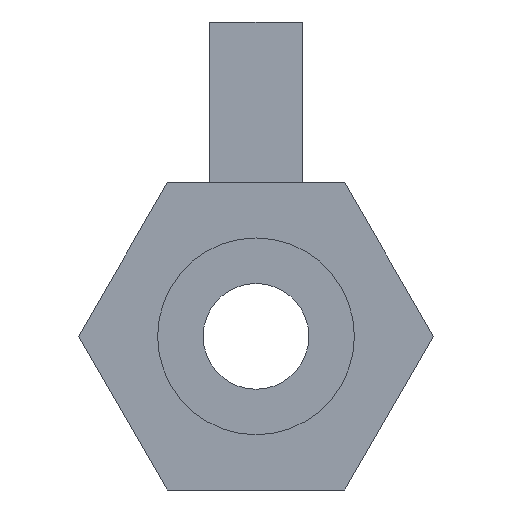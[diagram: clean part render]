
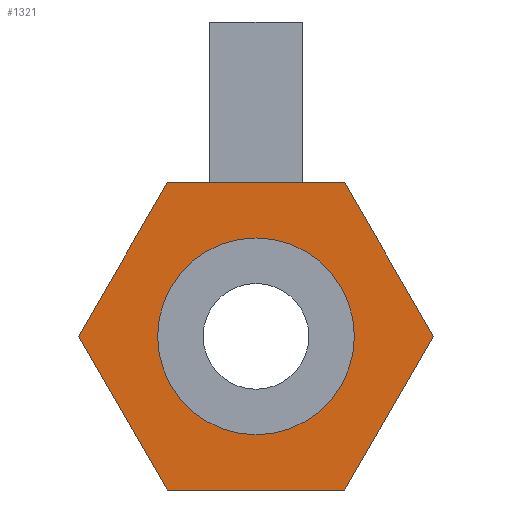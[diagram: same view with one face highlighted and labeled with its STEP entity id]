
A CAD part, left-side view. The second image highlights one B-rep face of the part: STEP entity #1321.
In plain terms, the highlighted planar face has unit normal (-1, 0, 0).
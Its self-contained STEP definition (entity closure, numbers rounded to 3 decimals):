
#346 = PLANE('',#347);
#347 = AXIS2_PLACEMENT_3D('',#348,#349,#350);
#348 = CARTESIAN_POINT('',(0.,0.,0.567));
#349 = DIRECTION('',(0.,0.,1.));
#350 = DIRECTION('',(0.,1.,0.));
#735 = CYLINDRICAL_SURFACE('',#736,0.363);
#736 = AXIS2_PLACEMENT_3D('',#737,#738,#739);
#737 = CARTESIAN_POINT('',(-2.09,0.,0.
    ));
#738 = DIRECTION('',(1.,0.,0.));
#739 = DIRECTION('',(0.,-1.,0.));
#760 = VERTEX_POINT('',#761);
#761 = CARTESIAN_POINT('',(-2.09,-0.363,0.));
#781 = EDGE_CURVE('',#760,#760,#782,.T.);
#782 = SURFACE_CURVE('',#783,(#788,#795),.PCURVE_S1.);
#783 = CIRCLE('',#784,0.363);
#784 = AXIS2_PLACEMENT_3D('',#785,#786,#787);
#785 = CARTESIAN_POINT('',(-2.09,0.,0.
    ));
#786 = DIRECTION('',(1.,0.,0.));
#787 = DIRECTION('',(0.,-1.,0.));
#788 = PCURVE('',#735,#789);
#789 = DEFINITIONAL_REPRESENTATION('',(#790),#794);
#790 = LINE('',#791,#792);
#791 = CARTESIAN_POINT('',(0.,0.));
#792 = VECTOR('',#793,1.);
#793 = DIRECTION('',(1.,0.));
#794 = ( GEOMETRIC_REPRESENTATION_CONTEXT(2) 
PARAMETRIC_REPRESENTATION_CONTEXT() REPRESENTATION_CONTEXT('2D SPACE',''
  ) );
#795 = PCURVE('',#796,#801);
#796 = PLANE('',#797);
#797 = AXIS2_PLACEMENT_3D('',#798,#799,#800);
#798 = CARTESIAN_POINT('',(-2.09,0.,0.
    ));
#799 = DIRECTION('',(1.,0.,0.));
#800 = DIRECTION('',(0.,0.,-1.));
#801 = DEFINITIONAL_REPRESENTATION('',(#802),#806);
#802 = CIRCLE('',#803,0.363);
#803 = AXIS2_PLACEMENT_2D('',#804,#805);
#804 = CARTESIAN_POINT('',(0.,0.));
#805 = DIRECTION('',(0.,-1.));
#806 = ( GEOMETRIC_REPRESENTATION_CONTEXT(2) 
PARAMETRIC_REPRESENTATION_CONTEXT() REPRESENTATION_CONTEXT('2D SPACE',''
  ) );
#868 = EDGE_CURVE('',#869,#871,#873,.T.);
#869 = VERTEX_POINT('',#870);
#870 = CARTESIAN_POINT('',(-2.09,-0.327,-0.567));
#871 = VERTEX_POINT('',#872);
#872 = CARTESIAN_POINT('',(-2.09,0.327,-0.567));
#873 = SURFACE_CURVE('',#874,(#878,#890),.PCURVE_S1.);
#874 = LINE('',#875,#876);
#875 = CARTESIAN_POINT('',(-2.09,0.327,-0.567));
#876 = VECTOR('',#877,1.);
#877 = DIRECTION('',(0.,1.,0.));
#878 = PCURVE('',#879,#884);
#879 = PLANE('',#880);
#880 = AXIS2_PLACEMENT_3D('',#881,#882,#883);
#881 = CARTESIAN_POINT('',(0.,0.,-0.567));
#882 = DIRECTION('',(0.,0.,-1.));
#883 = DIRECTION('',(0.,-1.,0.));
#884 = DEFINITIONAL_REPRESENTATION('',(#885),#889);
#885 = LINE('',#886,#887);
#886 = CARTESIAN_POINT('',(-0.327,2.09));
#887 = VECTOR('',#888,1.);
#888 = DIRECTION('',(-1.,-0.));
#889 = ( GEOMETRIC_REPRESENTATION_CONTEXT(2) 
PARAMETRIC_REPRESENTATION_CONTEXT() REPRESENTATION_CONTEXT('2D SPACE',''
  ) );
#890 = PCURVE('',#796,#891);
#891 = DEFINITIONAL_REPRESENTATION('',(#892),#896);
#892 = LINE('',#893,#894);
#893 = CARTESIAN_POINT('',(0.567,0.327));
#894 = VECTOR('',#895,1.);
#895 = DIRECTION('',(0.,1.));
#896 = ( GEOMETRIC_REPRESENTATION_CONTEXT(2) 
PARAMETRIC_REPRESENTATION_CONTEXT() REPRESENTATION_CONTEXT('2D SPACE',''
  ) );
#914 = PLANE('',#915);
#915 = AXIS2_PLACEMENT_3D('',#916,#917,#918);
#916 = CARTESIAN_POINT('',(0.,0.491,-0.284));
#917 = DIRECTION('',(0.,0.866,-0.5));
#918 = DIRECTION('',(0.,-0.5,-0.866));
#963 = PLANE('',#964);
#964 = AXIS2_PLACEMENT_3D('',#965,#966,#967);
#965 = CARTESIAN_POINT('',(0.,-0.491,-0.284));
#966 = DIRECTION('',(0.,-0.866,-0.5));
#967 = DIRECTION('',(0.,-0.5,0.866));
#978 = EDGE_CURVE('',#871,#979,#981,.T.);
#979 = VERTEX_POINT('',#980);
#980 = CARTESIAN_POINT('',(-2.09,0.655,0.));
#981 = SURFACE_CURVE('',#982,(#986,#993),.PCURVE_S1.);
#982 = LINE('',#983,#984);
#983 = CARTESIAN_POINT('',(-2.09,0.655,0.));
#984 = VECTOR('',#985,1.);
#985 = DIRECTION('',(0.,0.5,0.866));
#986 = PCURVE('',#914,#987);
#987 = DEFINITIONAL_REPRESENTATION('',(#988),#992);
#988 = LINE('',#989,#990);
#989 = CARTESIAN_POINT('',(-0.327,2.09));
#990 = VECTOR('',#991,1.);
#991 = DIRECTION('',(-1.,0.));
#992 = ( GEOMETRIC_REPRESENTATION_CONTEXT(2) 
PARAMETRIC_REPRESENTATION_CONTEXT() REPRESENTATION_CONTEXT('2D SPACE',''
  ) );
#993 = PCURVE('',#796,#994);
#994 = DEFINITIONAL_REPRESENTATION('',(#995),#999);
#995 = LINE('',#996,#997);
#996 = CARTESIAN_POINT('',(0.,0.655));
#997 = VECTOR('',#998,1.);
#998 = DIRECTION('',(-0.866,0.5));
#999 = ( GEOMETRIC_REPRESENTATION_CONTEXT(2) 
PARAMETRIC_REPRESENTATION_CONTEXT() REPRESENTATION_CONTEXT('2D SPACE',''
  ) );
#1017 = PLANE('',#1018);
#1018 = AXIS2_PLACEMENT_3D('',#1019,#1020,#1021);
#1019 = CARTESIAN_POINT('',(0.,0.491,0.284));
#1020 = DIRECTION('',(0.,0.866,0.5));
#1021 = DIRECTION('',(0.,0.5,-0.866));
#1054 = EDGE_CURVE('',#979,#1055,#1057,.T.);
#1055 = VERTEX_POINT('',#1056);
#1056 = CARTESIAN_POINT('',(-2.09,0.327,0.567));
#1057 = SURFACE_CURVE('',#1058,(#1062,#1069),.PCURVE_S1.);
#1058 = LINE('',#1059,#1060);
#1059 = CARTESIAN_POINT('',(-2.09,0.327,0.567));
#1060 = VECTOR('',#1061,1.);
#1061 = DIRECTION('',(0.,-0.5,0.866));
#1062 = PCURVE('',#1017,#1063);
#1063 = DEFINITIONAL_REPRESENTATION('',(#1064),#1068);
#1064 = LINE('',#1065,#1066);
#1065 = CARTESIAN_POINT('',(-0.327,2.09));
#1066 = VECTOR('',#1067,1.);
#1067 = DIRECTION('',(-1.,0.));
#1068 = ( GEOMETRIC_REPRESENTATION_CONTEXT(2) 
PARAMETRIC_REPRESENTATION_CONTEXT() REPRESENTATION_CONTEXT('2D SPACE',''
  ) );
#1069 = PCURVE('',#796,#1070);
#1070 = DEFINITIONAL_REPRESENTATION('',(#1071),#1075);
#1071 = LINE('',#1072,#1073);
#1072 = CARTESIAN_POINT('',(-0.567,0.327));
#1073 = VECTOR('',#1074,1.);
#1074 = DIRECTION('',(-0.866,-0.5));
#1075 = ( GEOMETRIC_REPRESENTATION_CONTEXT(2) 
PARAMETRIC_REPRESENTATION_CONTEXT() REPRESENTATION_CONTEXT('2D SPACE',''
  ) );
#1131 = EDGE_CURVE('',#1055,#1132,#1134,.T.);
#1132 = VERTEX_POINT('',#1133);
#1133 = CARTESIAN_POINT('',(-2.09,-0.327,0.567));
#1134 = SURFACE_CURVE('',#1135,(#1139,#1146),.PCURVE_S1.);
#1135 = LINE('',#1136,#1137);
#1136 = CARTESIAN_POINT('',(-2.09,-0.327,0.567));
#1137 = VECTOR('',#1138,1.);
#1138 = DIRECTION('',(0.,-1.,0.));
#1139 = PCURVE('',#346,#1140);
#1140 = DEFINITIONAL_REPRESENTATION('',(#1141),#1145);
#1141 = LINE('',#1142,#1143);
#1142 = CARTESIAN_POINT('',(-0.327,2.09));
#1143 = VECTOR('',#1144,1.);
#1144 = DIRECTION('',(-1.,0.));
#1145 = ( GEOMETRIC_REPRESENTATION_CONTEXT(2) 
PARAMETRIC_REPRESENTATION_CONTEXT() REPRESENTATION_CONTEXT('2D SPACE',''
  ) );
#1146 = PCURVE('',#796,#1147);
#1147 = DEFINITIONAL_REPRESENTATION('',(#1148),#1152);
#1148 = LINE('',#1149,#1150);
#1149 = CARTESIAN_POINT('',(-0.567,-0.327));
#1150 = VECTOR('',#1151,1.);
#1151 = DIRECTION('',(0.,-1.));
#1152 = ( GEOMETRIC_REPRESENTATION_CONTEXT(2) 
PARAMETRIC_REPRESENTATION_CONTEXT() REPRESENTATION_CONTEXT('2D SPACE',''
  ) );
#1170 = PLANE('',#1171);
#1171 = AXIS2_PLACEMENT_3D('',#1172,#1173,#1174);
#1172 = CARTESIAN_POINT('',(0.,-0.491,0.284));
#1173 = DIRECTION('',(0.,-0.866,0.5));
#1174 = DIRECTION('',(0.,0.5,0.866));
#1207 = EDGE_CURVE('',#1132,#1208,#1210,.T.);
#1208 = VERTEX_POINT('',#1209);
#1209 = CARTESIAN_POINT('',(-2.09,-0.655,0.));
#1210 = SURFACE_CURVE('',#1211,(#1215,#1222),.PCURVE_S1.);
#1211 = LINE('',#1212,#1213);
#1212 = CARTESIAN_POINT('',(-2.09,-0.655,0.));
#1213 = VECTOR('',#1214,1.);
#1214 = DIRECTION('',(0.,-0.5,-0.866));
#1215 = PCURVE('',#1170,#1216);
#1216 = DEFINITIONAL_REPRESENTATION('',(#1217),#1221);
#1217 = LINE('',#1218,#1219);
#1218 = CARTESIAN_POINT('',(-0.327,2.09));
#1219 = VECTOR('',#1220,1.);
#1220 = DIRECTION('',(-1.,-0.));
#1221 = ( GEOMETRIC_REPRESENTATION_CONTEXT(2) 
PARAMETRIC_REPRESENTATION_CONTEXT() REPRESENTATION_CONTEXT('2D SPACE',''
  ) );
#1222 = PCURVE('',#796,#1223);
#1223 = DEFINITIONAL_REPRESENTATION('',(#1224),#1228);
#1224 = LINE('',#1225,#1226);
#1225 = CARTESIAN_POINT('',(0.,-0.655));
#1226 = VECTOR('',#1227,1.);
#1227 = DIRECTION('',(0.866,-0.5));
#1228 = ( GEOMETRIC_REPRESENTATION_CONTEXT(2) 
PARAMETRIC_REPRESENTATION_CONTEXT() REPRESENTATION_CONTEXT('2D SPACE',''
  ) );
#1278 = EDGE_CURVE('',#1208,#869,#1279,.T.);
#1279 = SURFACE_CURVE('',#1280,(#1284,#1291),.PCURVE_S1.);
#1280 = LINE('',#1281,#1282);
#1281 = CARTESIAN_POINT('',(-2.09,-0.327,-0.567));
#1282 = VECTOR('',#1283,1.);
#1283 = DIRECTION('',(0.,0.5,-0.866));
#1284 = PCURVE('',#963,#1285);
#1285 = DEFINITIONAL_REPRESENTATION('',(#1286),#1290);
#1286 = LINE('',#1287,#1288);
#1287 = CARTESIAN_POINT('',(-0.327,2.09));
#1288 = VECTOR('',#1289,1.);
#1289 = DIRECTION('',(-1.,-0.));
#1290 = ( GEOMETRIC_REPRESENTATION_CONTEXT(2) 
PARAMETRIC_REPRESENTATION_CONTEXT() REPRESENTATION_CONTEXT('2D SPACE',''
  ) );
#1291 = PCURVE('',#796,#1292);
#1292 = DEFINITIONAL_REPRESENTATION('',(#1293),#1297);
#1293 = LINE('',#1294,#1295);
#1294 = CARTESIAN_POINT('',(0.567,-0.327));
#1295 = VECTOR('',#1296,1.);
#1296 = DIRECTION('',(0.866,0.5));
#1297 = ( GEOMETRIC_REPRESENTATION_CONTEXT(2) 
PARAMETRIC_REPRESENTATION_CONTEXT() REPRESENTATION_CONTEXT('2D SPACE',''
  ) );
#1321 = ADVANCED_FACE('',(#1322,#1325),#796,.F.);
#1322 = FACE_BOUND('',#1323,.T.);
#1323 = EDGE_LOOP('',(#1324));
#1324 = ORIENTED_EDGE('',*,*,#781,.T.);
#1325 = FACE_BOUND('',#1326,.T.);
#1326 = EDGE_LOOP('',(#1327,#1328,#1329,#1330,#1331,#1332));
#1327 = ORIENTED_EDGE('',*,*,#868,.F.);
#1328 = ORIENTED_EDGE('',*,*,#1278,.F.);
#1329 = ORIENTED_EDGE('',*,*,#1207,.F.);
#1330 = ORIENTED_EDGE('',*,*,#1131,.F.);
#1331 = ORIENTED_EDGE('',*,*,#1054,.F.);
#1332 = ORIENTED_EDGE('',*,*,#978,.F.);
